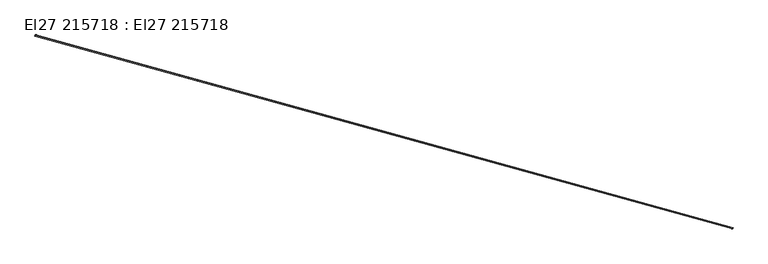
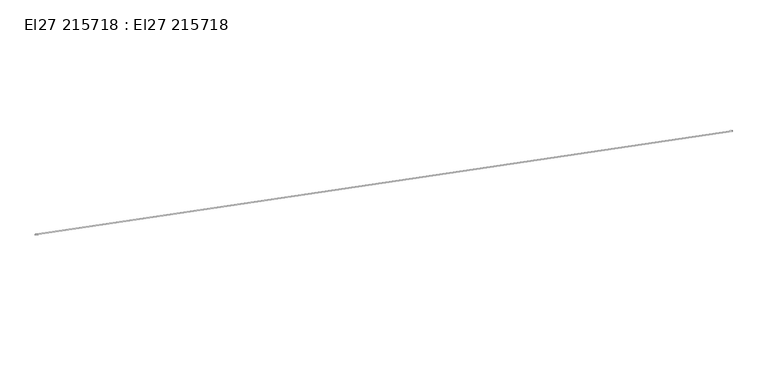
"""IFC4 building model written with IfcOpenShell, lengths in millimetres: cable carrier segment geometry, El27 215718 : El27 215718."""

from ifc_helpers import new_model, si_unit, point, frame, frame_2d, origin, place, context, project, spatial, circle_curve, trimmed, segment, composite_curve, outline, extrude, source, transform, mapped, element, save


def el27_215718_el27_215718_5dd1baf4(model_context):
    return source(origin(), model_context, "Body", "SweptSolid", [
        extrude(outline(composite_curve([segment(trimmed(circle_curve(frame_2d((0.0, -9.5)), 9.5), [point((0.0, -19.0))], [point((0.0, 0.0))], False, "CARTESIAN"), True, "CONTINUOUS"), segment(trimmed(circle_curve(frame_2d((0.0, -9.5)), 9.5), [point((0.0, 0.0))], [point((0.0, -19.0))], False, "CARTESIAN"), True, "CONTINUOUS")], self_intersect=False)), frame((25958.3998969, 13217.5110115, 3009.5), z_axis=(-0.9637386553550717, 0.26684790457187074, 0.0), x_axis=(-0.26684790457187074, -0.9637386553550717, 0.0)), (0.0, 0.0, 1.0), 12041.2),
    ])


if __name__ == "__main__":
    model = new_model("IFC4")
    model_context = context("Model", 3, world=origin())
    ifc_project = project(units=[si_unit("LENGTHUNIT", "METRE", prefix="MILLI")], contexts=[model_context])
    site = spatial("IfcSite", under=ifc_project)
    building = spatial("IfcBuilding", under=site)
    placement = place(None, origin())
    el27_215718_el27_215718_shape = el27_215718_el27_215718_5dd1baf4(model_context)
    element("IfcCableCarrierSegment", 1, ObjectType="El27 215718 : El27 215718", at=placement, inside=building, context=model_context, shape_type="MappedRepresentation", body=[
        mapped(el27_215718_el27_215718_shape, transform((0.0, 0.0, 0.0), x_axis=(1.0, 0.0, 0.0), y_axis=(0.0, 1.0, 0.0), z_axis=(0.0, 0.0, 1.0))),
    ])
    save(model, "model.ifc")
